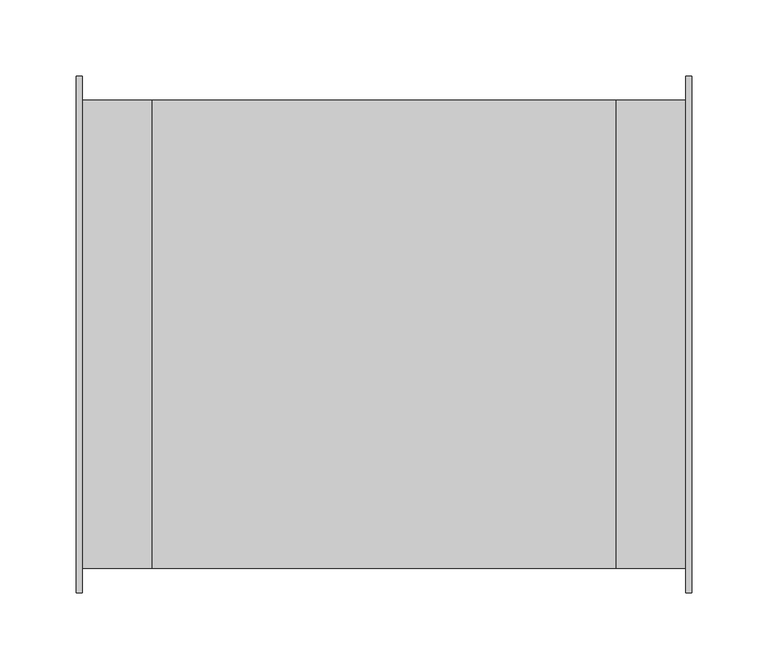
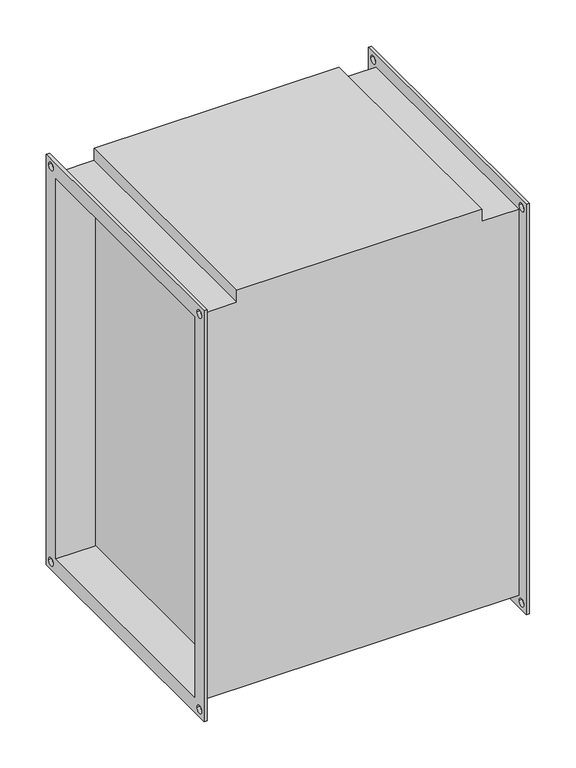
"""IFC4 building model written with IfcOpenShell, lengths in millimetres: proxy geometry, СВ_ВоздухонагревательЭлектрический_КанальныйПрямоугольный_200-1000_SPH-E : SPH-E-500x300/15."""

from ifc_helpers import new_model, si_unit, frame, origin, place, context, project, spatial, polyline, circle_curve, source, transform, mapped, element, save
from ifc_brep_helpers import plane_surface, revolved_surface, advanced_brep


def mechanical_equipment_bc9cfaa7(model_context):
    return source(origin(), model_context, "Body", "AdvancedBrep", [
        advanced_brep(
        [(-152.5, -154.0, 254.0), (-198.5, -154.0, 254.0), (-198.5, -154.0, -254.0), (198.5, -154.0, -254.0), (198.5, -154.0, 254.0), (152.5, -154.0, 254.0), (152.5, -154.0, 270.0), (-152.5, -154.0, 270.0), (-198.5, 154.0, -254.0), (198.5, 154.0, -254.0), (-198.5, 154.0, 254.0), (-152.5, 154.0, 254.0), (-152.5, 154.0, 270.0), (152.5, 154.0, 270.0), (152.5, 154.0, 254.0), (198.5, 154.0, 254.0), (152.5, 150.0, -250.0), (152.5, 150.0, 250.0), (152.5, -150.0, 250.0), (152.5, -150.0, -250.0), (-152.5, -150.0, 250.0), (-152.5, 150.0, 250.0), (-152.5, 150.0, -250.0), (-152.5, -150.0, -250.0), (-202.5, -170.0, 270.0), (-202.5, 170.0, 270.0), (-202.5, 170.0, -270.0), (-202.5, -170.0, -270.0), (-202.5, -150.0, 250.0), (-202.5, -150.0, -250.0), (-202.5, 150.0, -250.0), (-202.5, 150.0, 250.0), (-202.5, 155.0, 260.0), (-202.5, 165.0, 260.0), (-202.5, -165.0, 260.0), (-202.5, -155.0, 260.0), (-202.5, -165.0, -260.0), (-202.5, -155.0, -260.0), (-202.5, 155.0, -260.0), (-202.5, 165.0, -260.0), (-198.5, -170.0, 270.0), (-198.5, -170.0, -270.0), (-198.5, 170.0, -270.0), (-198.5, 170.0, 270.0), (-198.5, 165.0, 260.0), (-198.5, 155.0, 260.0), (-198.5, -155.0, 260.0), (-198.5, -165.0, 260.0), (-198.5, -155.0, -260.0), (-198.5, -165.0, -260.0), (-198.5, 165.0, -260.0), (-198.5, 155.0, -260.0), (198.5, 170.0, 270.0), (198.5, 170.0, -270.0), (198.5, -170.0, -270.0), (198.5, -170.0, 270.0), (198.5, 155.0, 260.0), (198.5, 165.0, 260.0), (198.5, -165.0, 260.0), (198.5, -155.0, 260.0), (198.5, -165.0, -260.0), (198.5, -155.0, -260.0), (198.5, 155.0, -260.0), (198.5, 165.0, -260.0), (202.5, 170.0, 270.0), (202.5, -170.0, 270.0), (202.5, -170.0, -270.0), (202.5, 170.0, -270.0), (202.5, 150.0, 250.0), (202.5, 150.0, -250.0), (202.5, -150.0, -250.0), (202.5, -150.0, 250.0), (202.5, 165.0, 260.0), (202.5, 155.0, 260.0), (202.5, -155.0, 260.0), (202.5, -165.0, 260.0), (202.5, -155.0, -260.0), (202.5, -165.0, -260.0), (202.5, 165.0, -260.0), (202.5, 155.0, -260.0)],
        [
            (0, 1),
            (1, 2),
            (2, 3),
            (3, 4),
            (4, 5),
            (5, 6),
            (6, 7),
            (7, 0),
            (2, 8),
            (8, 9),
            (9, 3),
            (10, 11),
            (11, 12),
            (12, 13),
            (13, 14),
            (14, 15),
            (15, 9),
            (8, 10),
            (0, 11),
            (10, 1),
            (13, 6),
            (5, 14),
            (16, 17),
            (17, 18),
            (18, 19),
            (19, 16),
            (7, 12),
            (20, 21),
            (21, 22),
            (22, 23),
            (23, 20),
            (4, 15),
            (24, 25),
            (25, 26),
            (26, 27),
            (27, 24),
            (28, 29),
            (29, 30),
            (30, 31),
            (31, 28),
            (32, 33, circle_curve(frame((-202.5, 160.0, 260.0), z_axis=(1.0, 0.0, 0.0), x_axis=(0.0, 1.0, 0.0)), 5.0)),
            (33, 32, circle_curve(frame((-202.5, 160.0, 260.0), z_axis=(1.0, 0.0, 0.0), x_axis=(0.0, 1.0, 0.0)), 5.0)),
            (34, 35, circle_curve(frame((-202.5, -160.0, 260.0), z_axis=(1.0, 0.0, 0.0), x_axis=(0.0, 1.0, 0.0)), 5.0)),
            (35, 34, circle_curve(frame((-202.5, -160.0, 260.0), z_axis=(1.0, 0.0, 0.0), x_axis=(0.0, 1.0, 0.0)), 5.0)),
            (36, 37, circle_curve(frame((-202.5, -160.0, -260.0), z_axis=(1.0, 0.0, 0.0), x_axis=(0.0, 1.0, 0.0)), 5.0)),
            (37, 36, circle_curve(frame((-202.5, -160.0, -260.0), z_axis=(1.0, 0.0, 0.0), x_axis=(0.0, 1.0, 0.0)), 5.0)),
            (38, 39, circle_curve(frame((-202.5, 160.0, -260.0), z_axis=(1.0, 0.0, 0.0), x_axis=(0.0, 1.0, 0.0)), 5.0)),
            (39, 38, circle_curve(frame((-202.5, 160.0, -260.0), z_axis=(1.0, 0.0, 0.0), x_axis=(0.0, 1.0, 0.0)), 5.0)),
            (40, 41),
            (41, 42),
            (42, 43),
            (43, 40),
            (44, 45, circle_curve(frame((-198.5, 160.0, 260.0), z_axis=(-1.0, 0.0, 0.0), x_axis=(0.0, 1.0, 0.0)), 5.0)),
            (45, 44, circle_curve(frame((-198.5, 160.0, 260.0), z_axis=(-1.0, 0.0, 0.0), x_axis=(0.0, 1.0, 0.0)), 5.0)),
            (46, 47, circle_curve(frame((-198.5, -160.0, 260.0), z_axis=(-1.0, 0.0, 0.0), x_axis=(0.0, 1.0, 0.0)), 5.0)),
            (47, 46, circle_curve(frame((-198.5, -160.0, 260.0), z_axis=(-1.0, 0.0, 0.0), x_axis=(0.0, 1.0, 0.0)), 5.0)),
            (48, 49, circle_curve(frame((-198.5, -160.0, -260.0), z_axis=(-1.0, 0.0, 0.0), x_axis=(0.0, 1.0, 0.0)), 5.0)),
            (49, 48, circle_curve(frame((-198.5, -160.0, -260.0), z_axis=(-1.0, 0.0, 0.0), x_axis=(0.0, 1.0, 0.0)), 5.0)),
            (50, 51, circle_curve(frame((-198.5, 160.0, -260.0), z_axis=(-1.0, 0.0, 0.0), x_axis=(0.0, 1.0, 0.0)), 5.0)),
            (51, 50, circle_curve(frame((-198.5, 160.0, -260.0), z_axis=(-1.0, 0.0, 0.0), x_axis=(0.0, 1.0, 0.0)), 5.0)),
            (27, 41),
            (40, 24),
            (26, 42),
            (25, 43),
            (52, 53),
            (53, 54),
            (54, 55),
            (55, 52),
            (56, 57, circle_curve(frame((198.5, 160.0, 260.0), z_axis=(1.0, 0.0, 0.0), x_axis=(0.0, 1.0, 0.0)), 5.0)),
            (57, 56, circle_curve(frame((198.5, 160.0, 260.0), z_axis=(1.0, 0.0, 0.0), x_axis=(0.0, 1.0, 0.0)), 5.0)),
            (58, 59, circle_curve(frame((198.5, -160.0, 260.0), z_axis=(1.0, 0.0, 0.0), x_axis=(0.0, 1.0, 0.0)), 5.0)),
            (59, 58, circle_curve(frame((198.5, -160.0, 260.0), z_axis=(1.0, 0.0, 0.0), x_axis=(0.0, 1.0, 0.0)), 5.0)),
            (60, 61, circle_curve(frame((198.5, -160.0, -260.0), z_axis=(1.0, 0.0, 0.0), x_axis=(0.0, 1.0, 0.0)), 5.0)),
            (61, 60, circle_curve(frame((198.5, -160.0, -260.0), z_axis=(1.0, 0.0, 0.0), x_axis=(0.0, 1.0, 0.0)), 5.0)),
            (62, 63, circle_curve(frame((198.5, 160.0, -260.0), z_axis=(1.0, 0.0, 0.0), x_axis=(0.0, 1.0, 0.0)), 5.0)),
            (63, 62, circle_curve(frame((198.5, 160.0, -260.0), z_axis=(1.0, 0.0, 0.0), x_axis=(0.0, 1.0, 0.0)), 5.0)),
            (64, 65),
            (65, 66),
            (66, 67),
            (67, 64),
            (68, 69),
            (69, 70),
            (70, 71),
            (71, 68),
            (72, 73, circle_curve(frame((202.5, 160.0, 260.0), z_axis=(-1.0, 0.0, 0.0), x_axis=(0.0, 1.0, 0.0)), 5.0)),
            (73, 72, circle_curve(frame((202.5, 160.0, 260.0), z_axis=(-1.0, 0.0, 0.0), x_axis=(0.0, 1.0, 0.0)), 5.0)),
            (74, 75, circle_curve(frame((202.5, -160.0, 260.0), z_axis=(-1.0, 0.0, 0.0), x_axis=(0.0, 1.0, 0.0)), 5.0)),
            (75, 74, circle_curve(frame((202.5, -160.0, 260.0), z_axis=(-1.0, 0.0, 0.0), x_axis=(0.0, 1.0, 0.0)), 5.0)),
            (76, 77, circle_curve(frame((202.5, -160.0, -260.0), z_axis=(-1.0, 0.0, 0.0), x_axis=(0.0, 1.0, 0.0)), 5.0)),
            (77, 76, circle_curve(frame((202.5, -160.0, -260.0), z_axis=(-1.0, 0.0, 0.0), x_axis=(0.0, 1.0, 0.0)), 5.0)),
            (78, 79, circle_curve(frame((202.5, 160.0, -260.0), z_axis=(-1.0, 0.0, 0.0), x_axis=(0.0, 1.0, 0.0)), 5.0)),
            (79, 78, circle_curve(frame((202.5, 160.0, -260.0), z_axis=(-1.0, 0.0, 0.0), x_axis=(0.0, 1.0, 0.0)), 5.0)),
            (55, 65),
            (64, 52),
            (54, 66),
            (53, 67),
            (31, 21),
            (20, 28),
            (30, 22),
            (29, 23),
            (68, 17),
            (16, 69),
            (19, 70),
            (18, 71),
            (32, 45),
            (44, 33),
            (56, 73),
            (72, 57),
            (34, 47),
            (46, 35),
            (58, 75),
            (74, 59),
            (36, 49),
            (48, 37),
            (60, 77),
            (76, 61),
            (38, 51),
            (50, 39),
            (62, 79),
            (78, 63),
        ],
        [
            plane_surface(frame((-152.5, -154.0, 254.0), z_axis=(0.0, -1.0, 0.0), x_axis=(-1.0, 0.0, 0.0))),
            plane_surface(frame((-152.5, -154.0, -254.0), z_axis=(0.0, 0.0, -1.0), x_axis=(-1.0, 0.0, 0.0))),
            plane_surface(frame((-152.5, 154.0, -254.0), z_axis=(0.0, 1.0, 0.0), x_axis=(-1.0, 0.0, 0.0))),
            plane_surface(frame((-152.5, 154.0, 254.0), z_axis=(0.0, 0.0, 1.0), x_axis=(-1.0, 0.0, 0.0))),
            plane_surface(frame((152.5, -154.0, 270.0), z_axis=(1.0, 0.0, 0.0), x_axis=(0.0, 0.0, -1.0))),
            plane_surface(frame((-152.5, -154.0, 270.0), z_axis=(-1.0, 0.0, 0.0), x_axis=(0.0, 0.0, 1.0))),
            plane_surface(frame((152.5, 154.0, 270.0), z_axis=(0.0, 0.0, 1.0), x_axis=(-1.0, 0.0, 0.0))),
            plane_surface(frame((198.5, 154.0, 254.0), z_axis=(0.0, 0.0, 1.0), x_axis=(-1.0, 0.0, 0.0))),
            plane_surface(frame((-202.5, -170.0, 270.0), z_axis=(-1.0, 0.0, 0.0), x_axis=(0.0, 0.0, 1.0))),
            plane_surface(frame((-198.5, -170.0, 270.0), z_axis=(1.0, 0.0, 0.0), x_axis=(0.0, 0.0, -1.0))),
            plane_surface(frame((-198.5, -170.0, 270.0), z_axis=(0.0, -1.0, 0.0), x_axis=(-1.0, 0.0, 0.0))),
            plane_surface(frame((-198.5, -170.0, -270.0), z_axis=(0.0, 0.0, -1.0), x_axis=(-1.0, 0.0, 0.0))),
            plane_surface(frame((-198.5, 170.0, -270.0), z_axis=(0.0, 1.0, 0.0), x_axis=(-1.0, 0.0, 0.0))),
            plane_surface(frame((-198.5, 170.0, 270.0), z_axis=(0.0, 0.0, 1.0), x_axis=(-1.0, 0.0, 0.0))),
            plane_surface(frame((198.5, 150.0, -250.0), z_axis=(-1.0, 0.0, 0.0), x_axis=(0.0, 0.0, 1.0))),
            plane_surface(frame((202.5, 150.0, -250.0), z_axis=(1.0, 0.0, 0.0), x_axis=(0.0, 0.0, -1.0))),
            plane_surface(frame((202.5, 170.0, 270.0), z_axis=(0.0, 0.0, 1.0), x_axis=(-1.0, 0.0, 0.0))),
            plane_surface(frame((202.5, -170.0, 270.0), z_axis=(0.0, -1.0, 0.0), x_axis=(-1.0, 0.0, 0.0))),
            plane_surface(frame((202.5, -170.0, -270.0), z_axis=(0.0, 0.0, -1.0), x_axis=(-1.0, 0.0, 0.0))),
            plane_surface(frame((202.5, 170.0, -270.0), z_axis=(0.0, 1.0, 0.0), x_axis=(-1.0, 0.0, 0.0))),
            plane_surface(frame((-198.5, -150.0, 250.0), z_axis=(0.0, 0.0, -1.0), x_axis=(-1.0, 0.0, 0.0))),
            plane_surface(frame((-198.5, 150.0, 250.0), z_axis=(0.0, -1.0, 0.0), x_axis=(-1.0, 0.0, 0.0))),
            plane_surface(frame((-198.5, 150.0, -250.0), z_axis=(0.0, 0.0, 1.0), x_axis=(-1.0, 0.0, 0.0))),
            plane_surface(frame((-198.5, -150.0, -250.0), z_axis=(0.0, 1.0, 0.0), x_axis=(-1.0, 0.0, 0.0))),
            plane_surface(frame((202.5, 150.0, 250.0), z_axis=(0.0, -1.0, 0.0), x_axis=(-1.0, 0.0, 0.0))),
            plane_surface(frame((202.5, 150.0, -250.0), z_axis=(0.0, 0.0, 1.0), x_axis=(-1.0, 0.0, 0.0))),
            plane_surface(frame((202.5, -150.0, -250.0), z_axis=(0.0, 1.0, 0.0), x_axis=(-1.0, 0.0, 0.0))),
            plane_surface(frame((202.5, -150.0, 250.0), z_axis=(0.0, 0.0, -1.0), x_axis=(-1.0, 0.0, 0.0))),
            revolved_surface(polyline([(-198.5, 165.0, 260.0), (-202.5, 165.0, 260.0)]), (-202.5, 160.0, 260.0), (1.0, 0.0, 0.0)),
            revolved_surface(polyline([(202.5, 165.0, 260.0), (198.5, 165.0, 260.0)]), (-202.5, 160.0, 260.0), (1.0, 0.0, 0.0)),
            revolved_surface(polyline([(-198.5, -155.0, 260.0), (-202.5, -155.0, 260.0)]), (0.0, -160.0, 260.0), (1.0, 0.0, 0.0)),
            revolved_surface(polyline([(202.5, -155.0, 260.0), (198.5, -155.0, 260.0)]), (0.0, -160.0, 260.0), (1.0, 0.0, 0.0)),
            revolved_surface(polyline([(-198.5, -155.0, -260.0), (-202.5, -155.0, -260.0)]), (0.0, -160.0, -260.0), (1.0, 0.0, 0.0)),
            revolved_surface(polyline([(202.5, -155.0, -260.0), (198.5, -155.0, -260.0)]), (0.0, -160.0, -260.0), (1.0, 0.0, 0.0)),
            revolved_surface(polyline([(-198.5, 165.0, -260.0), (-202.5, 165.0, -260.0)]), (0.0, 160.0, -260.0), (1.0, 0.0, 0.0)),
            revolved_surface(polyline([(202.5, 165.0, -260.0), (198.5, 165.0, -260.0)]), (0.0, 160.0, -260.0), (1.0, 0.0, 0.0)),
        ],
        [
            (0, [[1, 2, 3, 4, 5, 6, 7, 8]]),
            (1, [[-3, 9, 10, 11]]),
            (2, [[12, 13, 14, 15, 16, 17, -10, 18]]),
            (3, [[-1, 19, -12, 20]]),
            (4, [[21, -6, 22, -15]]),
            (4, [[23, 24, 25, 26]]),
            (5, [[27, -13, -19, -8]]),
            (5, [[28, 29, 30, 31]]),
            (6, [[-21, -14, -27, -7]]),
            (7, [[-5, 32, -16, -22]]),
            (8, [[33, 34, 35, 36], [37, 38, 39, 40], [41, 42], [43, 44], [45, 46], [47, 48]]),
            (9, [[49, 50, 51, 52], [-2, -20, -18, -9], [53, 54], [55, 56], [57, 58], [59, 60]]),
            (10, [[-36, 61, -49, 62]]),
            (11, [[-35, 63, -50, -61]]),
            (12, [[-34, 64, -51, -63]]),
            (13, [[-33, -62, -52, -64]]),
            (14, [[65, 66, 67, 68], [-4, -11, -17, -32], [69, 70], [71, 72], [73, 74], [75, 76]]),
            (15, [[77, 78, 79, 80], [81, 82, 83, 84], [85, 86], [87, 88], [89, 90], [91, 92]]),
            (16, [[-68, 93, -77, 94]]),
            (17, [[-67, 95, -78, -93]]),
            (18, [[-66, 96, -79, -95]]),
            (19, [[-65, -94, -80, -96]]),
            (20, [[-40, 97, -28, 98]]),
            (21, [[-39, 99, -29, -97]]),
            (22, [[-38, 100, -30, -99]]),
            (23, [[-37, -98, -31, -100]]),
            (24, [[-81, 101, -23, 102]]),
            (25, [[-82, -102, -26, 103]]),
            (26, [[-83, -103, -25, 104]]),
            (27, [[-101, -84, -104, -24]]),
            (28, [[105, -53, 106, -41]]),
            (29, [[107, -85, 108, -69]]),
            (28, [[-105, -42, -106, -54]]),
            (29, [[-107, -70, -108, -86]]),
            (30, [[109, -55, 110, -43]]),
            (31, [[111, -87, 112, -71]]),
            (30, [[-109, -44, -110, -56]]),
            (31, [[-111, -72, -112, -88]]),
            (32, [[113, -57, 114, -45]]),
            (33, [[115, -89, 116, -73]]),
            (32, [[-113, -46, -114, -58]]),
            (33, [[-115, -74, -116, -90]]),
            (34, [[117, -59, 118, -47]]),
            (35, [[119, -91, 120, -75]]),
            (34, [[-117, -48, -118, -60]]),
            (35, [[-119, -76, -120, -92]]),
        ],
    ),
    ])


if __name__ == "__main__":
    model = new_model("IFC4")
    model_context = context("Model", 3, world=origin())
    ifc_project = project(units=[si_unit("LENGTHUNIT", "METRE", prefix="MILLI")], contexts=[model_context])
    site = spatial("IfcSite", under=ifc_project)
    building = spatial("IfcBuilding", under=site)
    placement = place(None, origin())
    mechanical_equipment_shape = mechanical_equipment_bc9cfaa7(model_context)
    element("IfcBuildingElementProxy", 1, Name="СВ_ВоздухонагревательЭлектрический_КанальныйПрямоугольный_200-1000_SPH-E : SPH-E-500x300/15", ObjectType="СВ_ВоздухонагревательЭлектрический_КанальныйПрямоугольный_200-1000_SPH-E : SPH-E-500x300/15", at=placement, inside=building, context=model_context, shape_type="MappedRepresentation", body=[
        mapped(mechanical_equipment_shape, transform((0.0, 0.0, 0.0), x_axis=(1.0, 0.0, 0.0), y_axis=(0.0, 1.0, 0.0), z_axis=(0.0, 0.0, 1.0))),
    ])
    save(model, "model.ifc")
